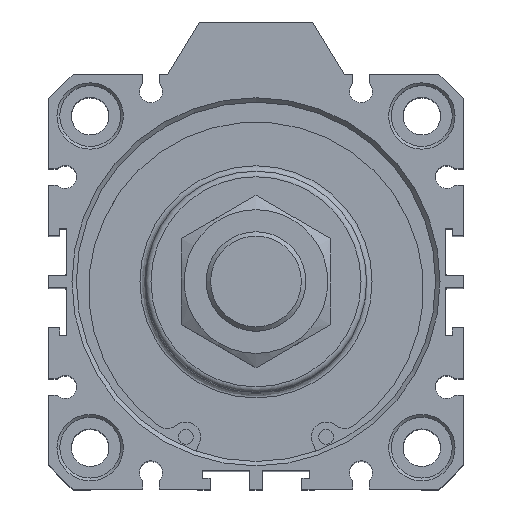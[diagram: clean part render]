
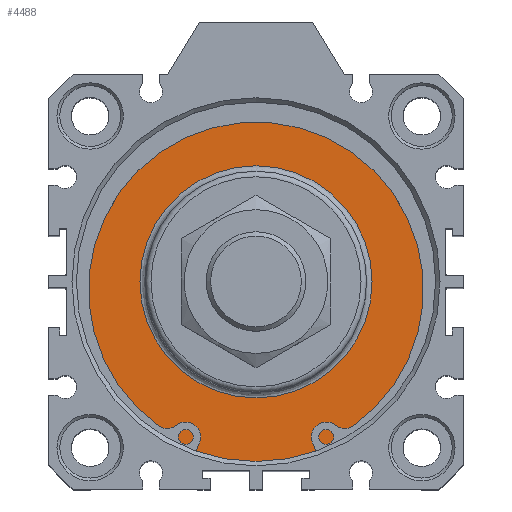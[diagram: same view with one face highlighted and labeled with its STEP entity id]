
A CAD part, top view. The second image highlights one B-rep face of the part: STEP entity #4488.
In plain terms, the highlighted planar face has unit normal (0, 0, 1).
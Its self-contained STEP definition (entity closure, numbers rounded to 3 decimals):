
#4437=CARTESIAN_POINT('',(2.99,22.555,87.3));
#4438=VERTEX_POINT('',#4437);
#4439=CARTESIAN_POINT('',(2.99,1.555,87.3));
#4440=DIRECTION('',(0.0,0.0,1.0));
#4441=DIRECTION('',(0.0,-1.0,0.0));
#4442=AXIS2_PLACEMENT_3D('',#4439,#4440,#4441);
#4443=CIRCLE('',#4442,21.);
#4444=EDGE_CURVE('',#4438,#4438,#4443,.T.);
#4469=CARTESIAN_POINT('',(2.99,27.805,87.3));
#4470=DIRECTION('',(0.0,0.0,1.0));
#4471=DIRECTION('',(1.0,0.0,0.0));
#4472=AXIS2_PLACEMENT_3D('',#4469,#4470,#4471);
#4473=PLANE('',#4472);
#4474=CARTESIAN_POINT('',(2.99,34.055,87.3));
#4475=VERTEX_POINT('',#4474);
#4476=CARTESIAN_POINT('',(2.99,1.555,87.3));
#4477=DIRECTION('',(0.0,0.0,-1.0));
#4478=DIRECTION('',(0.0,1.0,0.0));
#4479=AXIS2_PLACEMENT_3D('',#4476,#4477,#4478);
#4480=CIRCLE('',#4479,32.5);
#4481=EDGE_CURVE('',#4475,#4475,#4480,.T.);
#4482=ORIENTED_EDGE('',*,*,#4481,.F.);
#4483=EDGE_LOOP('',(#4482));
#4484=FACE_OUTER_BOUND('',#4483,.T.);
#4485=ORIENTED_EDGE('',*,*,#4444,.F.);
#4486=EDGE_LOOP('',(#4485));
#4487=FACE_BOUND('',#4486,.T.);
#4488=ADVANCED_FACE('',(#4484,#4487),#4473,.T.);
